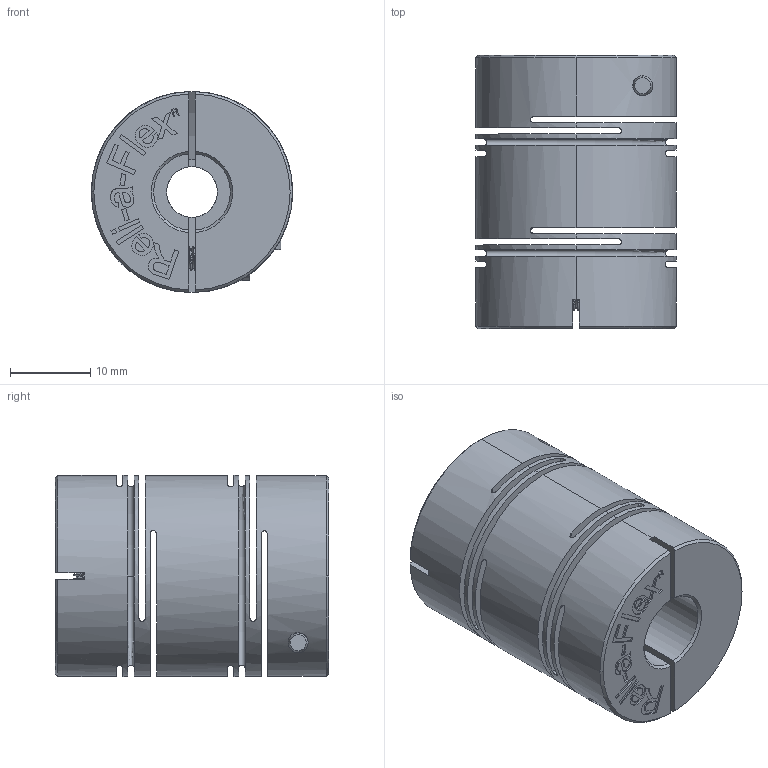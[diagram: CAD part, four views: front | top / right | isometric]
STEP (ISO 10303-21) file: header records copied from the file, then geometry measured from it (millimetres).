
FILE_DESCRIPTION (( 'STEP AP203' ), '1' );
FILE_NAME ('RCLA25C-0.375-6.STEP', '2012-04-26T13:30:47', ( 'render' ), ( '' ), 'SwSTEP 2.0', 'SolidWorks 2011', '' );
FILE_SCHEMA (( 'CONFIG_CONTROL_DESIGN' ));
Length unit declared in the file: millimetre
Products named in the file (1): RCLA25C-0.375-6
Bounding box: 25 x 34 x 25 mm (x, y, z)
Volume: 12029.8 mm3; surface area: 11231.6 mm2
Topology: 3 solids, 3 shells, 372 faces, 1010 edges, 668 vertices
Faces by surface type: cylinder 169, plane 159, cone 21, torus 17, bspline 6
Entity records: 22993 total; most frequent: CARTESIAN_POINT 13906, ORIENTED_EDGE 2020, DIRECTION 1752, EDGE_CURVE 1010, VERTEX_POINT 668, AXIS2_PLACEMENT_3D 616, LINE 520, VECTOR 520
